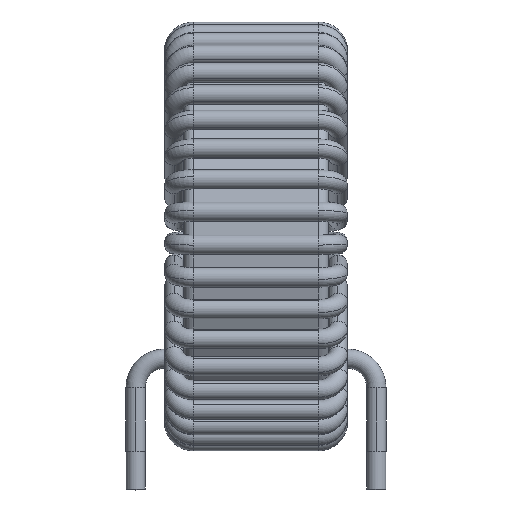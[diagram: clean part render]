
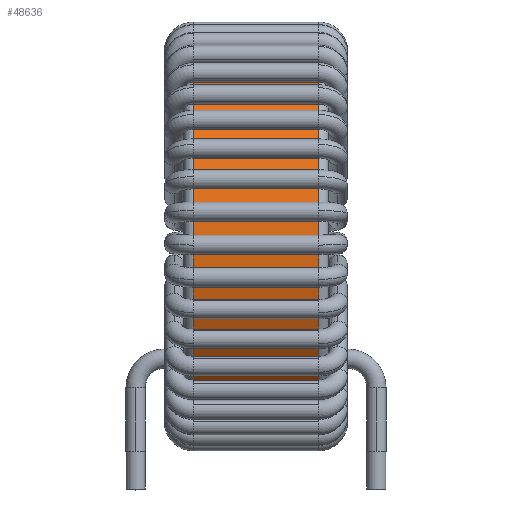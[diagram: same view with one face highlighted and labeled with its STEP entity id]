
A CAD part, top view. The second image highlights one B-rep face of the part: STEP entity #48636.
In plain terms, the highlighted cylindrical face has radius 20.3 mm (diameter 40.6 mm), a partial arc.
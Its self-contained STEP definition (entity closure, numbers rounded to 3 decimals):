
#1893 = CARTESIAN_POINT ( 'NONE',  ( -6.5, 2., 0. ) ) ;
#2503 = FACE_OUTER_BOUND ( 'NONE', #26886, .T. ) ;
#4586 = DIRECTION ( 'NONE',  ( 1., 0., 0. ) ) ;
#6146 = EDGE_CURVE ( 'NONE', #44183, #16015, #7785, .T. ) ;
#6768 = EDGE_CURVE ( 'NONE', #16015, #14937, #51463, .T. ) ;
#7627 = AXIS2_PLACEMENT_3D ( 'NONE', #37954, #55773, #15859 ) ;
#7785 = LINE ( 'NONE', #25511, #57514 ) ;
#9084 = DIRECTION ( 'NONE',  ( 1., 0., 0. ) ) ;
#13959 = DIRECTION ( 'NONE',  ( 0., 1., 0. ) ) ;
#14298 = CARTESIAN_POINT ( 'NONE',  ( 6.5, 2., 0. ) ) ;
#14937 = VERTEX_POINT ( 'NONE', #14298 ) ;
#15164 = AXIS2_PLACEMENT_3D ( 'NONE', #48963, #9084, #26803 ) ;
#15859 = DIRECTION ( 'NONE',  ( 0., 1., 0. ) ) ;
#16015 = VERTEX_POINT ( 'NONE', #29459 ) ;
#20186 = CYLINDRICAL_SURFACE ( 'NONE', #7627, 20.3 ) ;
#20641 = ORIENTED_EDGE ( 'NONE', *, *, #34062, .T. ) ;
#25511 = CARTESIAN_POINT ( 'NONE',  ( 17.929, 42.6, 0. ) ) ;
#25992 = VERTEX_POINT ( 'NONE', #1893 ) ;
#26310 = AXIS2_PLACEMENT_3D ( 'NONE', #48932, #53876, #13959 ) ;
#26675 = LINE ( 'NONE', #44449, #56316 ) ;
#26803 = DIRECTION ( 'NONE',  ( 0., 1., 0. ) ) ;
#26886 = EDGE_LOOP ( 'NONE', ( #20641, #43099, #39217, #54780 ) ) ;
#29457 = CARTESIAN_POINT ( 'NONE',  ( -6.5, 42.6, 0. ) ) ;
#29459 = CARTESIAN_POINT ( 'NONE',  ( 6.5, 42.6, 0. ) ) ;
#34062 = EDGE_CURVE ( 'NONE', #44183, #25992, #40251, .T. ) ;
#35507 = EDGE_CURVE ( 'NONE', #25992, #14937, #26675, .T. ) ;
#37954 = CARTESIAN_POINT ( 'NONE',  ( 17.929, 22.3, 0. ) ) ;
#39217 = ORIENTED_EDGE ( 'NONE', *, *, #6768, .F. ) ;
#40251 = CIRCLE ( 'NONE', #15164, 20.3 ) ;
#43099 = ORIENTED_EDGE ( 'NONE', *, *, #35507, .T. ) ;
#43289 = DIRECTION ( 'NONE',  ( 1., 0., 0. ) ) ;
#44183 = VERTEX_POINT ( 'NONE', #29457 ) ;
#44449 = CARTESIAN_POINT ( 'NONE',  ( 17.929, 2., 0. ) ) ;
#48636 = ADVANCED_FACE ( 'NONE', ( #2503 ), #20186, .T. ) ;
#48932 = CARTESIAN_POINT ( 'NONE',  ( 6.5, 22.3, 0. ) ) ;
#48963 = CARTESIAN_POINT ( 'NONE',  ( -6.5, 22.3, 0. ) ) ;
#51463 = CIRCLE ( 'NONE', #26310, 20.3 ) ;
#53876 = DIRECTION ( 'NONE',  ( 1., 0., 0. ) ) ;
#54780 = ORIENTED_EDGE ( 'NONE', *, *, #6146, .F. ) ;
#55773 = DIRECTION ( 'NONE',  ( 1., 0., 0. ) ) ;
#56316 = VECTOR ( 'NONE', #4586, 1000. ) ;
#57514 = VECTOR ( 'NONE', #43289, 1000. ) ;
